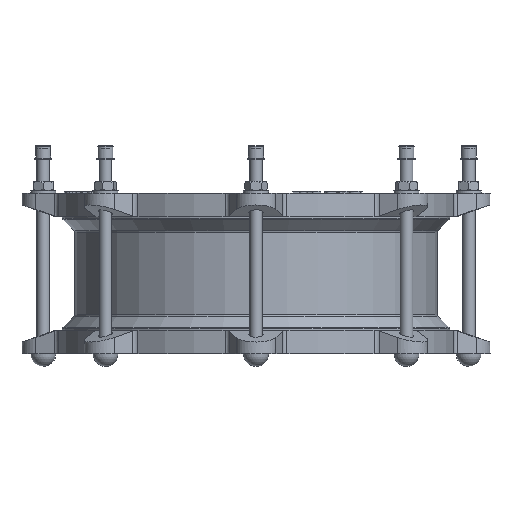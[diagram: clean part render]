
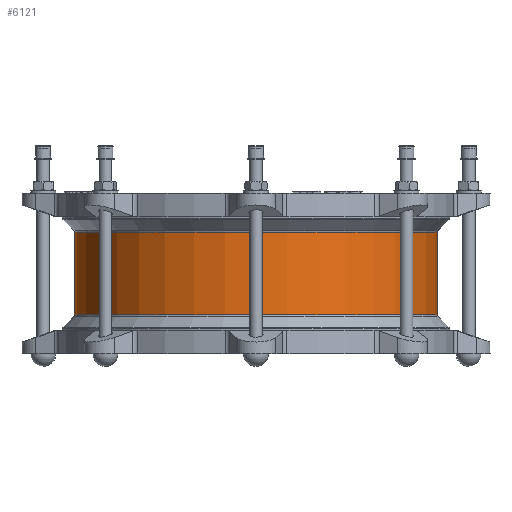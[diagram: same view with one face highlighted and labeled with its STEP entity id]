
A CAD part, front view. The second image highlights one B-rep face of the part: STEP entity #6121.
In plain terms, the highlighted cylindrical face has radius 201.5 mm (diameter 403 mm), a full revolution.
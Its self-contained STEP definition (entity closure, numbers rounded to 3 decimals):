
#6121=ADVANCED_FACE('',(#11365,#11367),#11369,.T.);
#11365=FACE_OUTER_BOUND('',#11366,.T.);
#11366=EDGE_LOOP('',(#16839));
#11367=FACE_OUTER_BOUND('',#11368,.T.);
#11368=EDGE_LOOP('',(#16840));
#11369=CYLINDRICAL_SURFACE('',#11370,201.5);
#11370=AXIS2_PLACEMENT_3D('',#11371,#11372,#11373);
#11371=CARTESIAN_POINT('',(0.,0.,47.257));
#11372=DIRECTION('',(0.,0.,-1.));
#11373=DIRECTION('',(0.,1.,0.));
#16839=ORIENTED_EDGE('',*,*,#19190,.T.);
#16840=ORIENTED_EDGE('',*,*,#19191,.F.);
#19190=EDGE_CURVE('',#22457,#22457,#22458,.T.);
#19191=EDGE_CURVE('',#22459,#22459,#22460,.T.);
#22457=VERTEX_POINT('',#34115);
#22458=CIRCLE('',#34116,201.5);
#22459=VERTEX_POINT('',#34120);
#22460=CIRCLE('',#34121,201.5);
#34115=CARTESIAN_POINT('',(0.,201.5,46.015));
#34116=AXIS2_PLACEMENT_3D('',#34117,#34118,#34119);
#34117=CARTESIAN_POINT('',(0.,0.,46.015));
#34118=DIRECTION('',(0.,0.,-1.));
#34119=DIRECTION('',(0.,1.,0.));
#34120=CARTESIAN_POINT('',(0.,201.5,-46.015));
#34121=AXIS2_PLACEMENT_3D('',#34122,#34123,#34124);
#34122=CARTESIAN_POINT('',(0.,0.,-46.015));
#34123=DIRECTION('',(0.,0.,-1.));
#34124=DIRECTION('',(0.,1.,0.));
